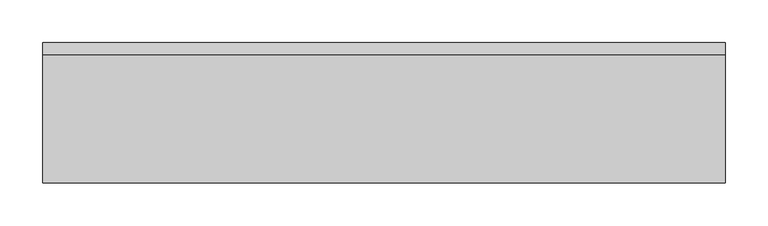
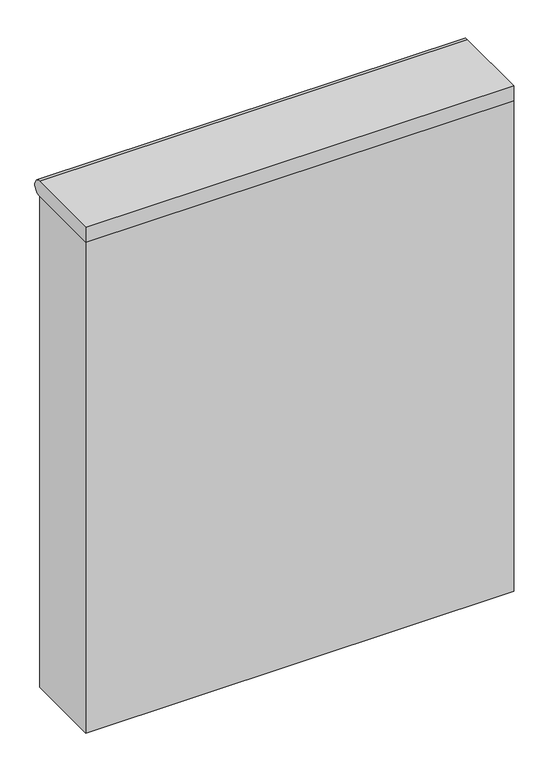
"""IFC4 building model written with IfcOpenShell, lengths in millimetres: flow terminal geometry, 洋式便器 - ライニング付 - 2D : タイプ 1."""

import ifcopenshell
import ifcopenshell.guid

model = None  # the IFC model being written
_history = None  # IfcOwnerHistory: only IFC2X3 demands one
_inside = {}  # id of a spatial element -> (the spatial element, [elements in it])
_under = {}  # id of a project, library or spatial element -> (it, [spatial elements below it])
_declared = {}  # id of a project -> (the project, [libraries it declares])
_typed = {}  # id of a type object -> (the type object, [elements of that type])
_made_of = {}  # id of a material, layer set ... -> (it, [elements and type objects made of it])


def new_model(schema):
    """Start an empty IFC model of exactly this schema.

    Asked for "IFC4X3", IfcOpenShell would pick the latest addendum, in which some entities
    have other attributes; the version numbers below select the first issue.
    IFC2X3 requires an IfcOwnerHistory on every rooted entity: one is made here for all.
    """
    global model, _history
    if schema == "IFC4X3":
        model = ifcopenshell.file(schema_version=(4, 3, 0, 0))
    else:
        model = ifcopenshell.file(schema=schema)
    _inside.clear()
    _under.clear()
    _declared.clear()
    _typed.clear()
    _made_of.clear()
    _history = None
    if model.schema == "IFC2X3":
        org = make("IfcOrganization", Name="unknown")
        user = make(
            "IfcPersonAndOrganization",
            ThePerson=make("IfcPerson", FamilyName="unknown"),
            TheOrganization=org,
        )
        app = make(
            "IfcApplication",
            ApplicationDeveloper=org,
            Version="unknown",
            ApplicationFullName="unknown",
            ApplicationIdentifier="unknown",
        )
        _history = make(
            "IfcOwnerHistory",
            OwningUser=user,
            OwningApplication=app,
            ChangeAction="ADDED",
            CreationDate=0,
        )
    return model


def make(cls, **values):
    """One entity of the class cls with the attributes given. An attribute that is None is left unset."""
    return model.create_entity(
        cls, **{name: value for name, value in values.items() if value is not None}
    )


def rooted(cls, **values):
    """An entity with a GlobalId (a new one), such as an element, a storey or a relation."""
    return make(cls, GlobalId=ifcopenshell.guid.new(), OwnerHistory=_history, **values)


def si_unit(unit_type, name, prefix=None):
    """IfcSIUnit, for example si_unit("LENGTHUNIT", "METRE", prefix="MILLI")."""
    return make("IfcSIUnit", UnitType=unit_type, Prefix=prefix, Name=name)


def assignment(units):
    """IfcUnitAssignment: the units of a project."""
    return None if units is None else make("IfcUnitAssignment", Units=units)


def point(xyz):
    """IfcCartesianPoint."""
    return None if xyz is None else make("IfcCartesianPoint", Coordinates=xyz)


def direction(xyz):
    """IfcDirection."""
    return None if xyz is None else make("IfcDirection", DirectionRatios=xyz)


def frame(location, z_axis=None, x_axis=None):
    """IfcAxis2Placement3D, a coordinate frame: its origin and axes. An axis left out is left unset."""
    return make(
        "IfcAxis2Placement3D",
        Location=point(location),
        Axis=direction(z_axis),
        RefDirection=direction(x_axis),
    )


def frame_2d(location, x_axis=None):
    """IfcAxis2Placement2D, a coordinate frame in the plane: its origin and x axis."""
    return make(
        "IfcAxis2Placement2D", Location=point(location), RefDirection=direction(x_axis)
    )


def origin():
    """The frame at (0, 0, 0) with its axes left unset."""
    return frame((0.0, 0.0, 0.0))


def origin_with_axes():
    """The frame at (0, 0, 0) with the z axis (0, 0, 1) and the x axis (1, 0, 0) written out."""
    return frame((0.0, 0.0, 0.0), z_axis=(0.0, 0.0, 1.0), x_axis=(1.0, 0.0, 0.0))


def place(relative_to, where):
    """IfcLocalPlacement: puts the frame where relative to a parent placement (None: the world)."""
    return make(
        "IfcLocalPlacement", PlacementRelTo=relative_to, RelativePlacement=where
    )


def context(
    kind, dimensions, precision=None, world=None, true_north=None, identifier=None
):
    """IfcGeometricRepresentationContext, for example the 3D "Model" context."""
    return make(
        "IfcGeometricRepresentationContext",
        ContextIdentifier=identifier,
        ContextType=kind,
        CoordinateSpaceDimension=dimensions,
        Precision=precision,
        WorldCoordinateSystem=world,
        TrueNorth=true_north,
    )


def project(units=None, contexts=None):
    """IfcProject with its units and contexts."""
    return rooted(
        "IfcProject",
        Name="project",
        RepresentationContexts=contexts,
        UnitsInContext=assignment(units),
    )


def spatial(cls, under=None, at=None, **own):
    """A site, building, storey or space (cls), placed at a placement, below another one or the project."""
    s = rooted(cls, ObjectPlacement=at, **own)
    if under is not None:
        _under.setdefault(under.id(), (under, []))[1].append(s)
    return s


def polyline(points):
    """IfcPolyline through the points."""
    return make("IfcPolyline", Points=[point(p) for p in points])


def circle_curve(where, radius):
    """IfcCircle in the frame where."""
    return make("IfcCircle", Position=where, Radius=radius)


def trimmed(basis, trim1, trim2, sense, master):
    """IfcTrimmedCurve: the piece of a basis curve between two trims."""
    return make(
        "IfcTrimmedCurve",
        BasisCurve=basis,
        Trim1=trim1,
        Trim2=trim2,
        SenseAgreement=sense,
        MasterRepresentation=master,
    )


def segment(curve, same_sense, transition):
    """IfcCompositeCurveSegment."""
    return make(
        "IfcCompositeCurveSegment",
        Transition=transition,
        SameSense=same_sense,
        ParentCurve=curve,
    )


def composite_curve(segments, self_intersect=None):
    """IfcCompositeCurve: segments joined end to end."""
    return make("IfcCompositeCurve", Segments=segments, SelfIntersect=self_intersect)


def outline(outer, holes=None, kind="AREA"):
    """IfcArbitraryClosedProfileDef: a profile drawn as a closed curve; with holes, ...WithVoids."""
    if holes is None:
        return make("IfcArbitraryClosedProfileDef", ProfileType=kind, OuterCurve=outer)
    return make(
        "IfcArbitraryProfileDefWithVoids",
        ProfileType=kind,
        OuterCurve=outer,
        InnerCurves=holes,
    )


def extrude(swept, where, along, depth):
    """IfcExtrudedAreaSolid: the profile swept, set in the frame where, extruded along a direction by depth."""
    return make(
        "IfcExtrudedAreaSolid",
        SweptArea=swept,
        Position=where,
        ExtrudedDirection=direction(along),
        Depth=depth,
    )


def shape(context_of_items, identifier, shape_type, items):
    """IfcShapeRepresentation: the items that make up one representation, for example the "Body"."""
    return make(
        "IfcShapeRepresentation",
        ContextOfItems=context_of_items,
        RepresentationIdentifier=identifier,
        RepresentationType=shape_type,
        Items=items,
    )


def source(mapping_origin, context_of_items, identifier, shape_type, items):
    """IfcRepresentationMap: a shape defined once, which mapped items show again and again."""
    return make(
        "IfcRepresentationMap",
        MappingOrigin=mapping_origin,
        MappedRepresentation=shape(context_of_items, identifier, shape_type, items),
    )


def transform(
    local_origin,
    x_axis=None,
    y_axis=None,
    z_axis=None,
    scale=None,
    scale2=None,
    scale3=None,
    uniform=True,
):
    """IfcCartesianTransformationOperator3D, or its non-uniform kind. x_axis, y_axis, z_axis: its Axis1, 2, 3."""
    if uniform:
        return make(
            "IfcCartesianTransformationOperator3D",
            Axis1=direction(x_axis),
            Axis2=direction(y_axis),
            LocalOrigin=point(local_origin),
            Scale=scale,
            Axis3=direction(z_axis),
        )
    return make(
        "IfcCartesianTransformationOperator3DnonUniform",
        Axis1=direction(x_axis),
        Axis2=direction(y_axis),
        LocalOrigin=point(local_origin),
        Scale=scale,
        Axis3=direction(z_axis),
        Scale2=scale2,
        Scale3=scale3,
    )


def mapped(mapping_source, mapping_target):
    """IfcMappedItem: shows the shape of a source again, moved by a transform."""
    return make(
        "IfcMappedItem", MappingSource=mapping_source, MappingTarget=mapping_target
    )


def made_of(thing, what):
    """Note that an element or type object is made of a material, layer set ...; save() writes the relation."""
    if what is not None:
        _made_of.setdefault(what.id(), (what, []))[1].append(thing)
    return thing


def element(
    cls,
    number,
    at=None,
    inside=None,
    cuts=None,
    type_object=None,
    material=None,
    context=None,
    identifier="Body",
    shape_type=None,
    held_by="IfcProductDefinitionShape",
    body=None,
    shapes=None,
    **own,
):
    """One element of the class cls, such as IfcWall. Its Tag is "e" and its number.

    at: its placement. inside: the storey or other place that contains it. cuts: it is an
    opening in that element (IfcRelVoidsElement). A single representation is given by context,
    identifier, shape_type and body (its items); several are given by shapes. held_by: the class
    of the entity that holds the representations. save() writes the other relations.
    """
    e = rooted(cls, Tag="e%d" % number, ObjectPlacement=at, **own)
    if body is not None:
        shapes = [shape(context, identifier, shape_type, body)]
    if shapes is not None:
        e.Representation = make(held_by, Representations=shapes)
    if inside is not None:
        _inside.setdefault(inside.id(), (inside, []))[1].append(e)
    if cuts is not None:
        rooted(
            "IfcRelVoidsElement", RelatingBuildingElement=cuts, RelatedOpeningElement=e
        )
    if type_object is not None:
        _typed.setdefault(type_object.id(), (type_object, []))[1].append(e)
    return made_of(e, material)


def aggregate(whole, parts):
    """IfcRelAggregates: a whole, such as a stair, and the parts it consists of."""
    return rooted("IfcRelAggregates", RelatingObject=whole, RelatedObjects=parts)


def save(model, path):
    """Write the relations noted so far, then the file.

    IfcRelAggregates (storeys below a building ...), IfcRelContainedInSpatialStructure (elements
    in a storey), IfcRelDefinesByType, IfcRelAssociatesMaterial and IfcRelDeclares: one each for
    every whole, place, type object, material and project.
    """
    for whole, parts in _under.values():
        aggregate(whole, parts)
    for where, things in _inside.values():
        rooted(
            "IfcRelContainedInSpatialStructure",
            RelatedElements=things,
            RelatingStructure=where,
        )
    for kind, things in _typed.values():
        rooted("IfcRelDefinesByType", RelatedObjects=things, RelatingType=kind)
    for what, things in _made_of.values():
        rooted("IfcRelAssociatesMaterial", RelatedObjects=things, RelatingMaterial=what)
    for by, libraries in _declared.values():
        rooted("IfcRelDeclares", RelatingContext=by, RelatedDefinitions=libraries)
    model.write(path)


def flow_terminal_b8fa7ae2(model_context):
    return source(origin(), model_context, "Body", "SweptSolid", [
        extrude(outline(composite_curve([segment(trimmed(circle_curve(frame_2d((250.0, 985.0)), 15.0), [point((250.0, 1000.0))], [point((250.0, 970.0))], False, "CARTESIAN"), True, "CONTINUOUS"), segment(polyline([(250.0, 970.0), (100.0, 970.0), (100.0, 1000.0), (250.0, 1000.0)]), True, "CONTINUOUS")], self_intersect=False)), frame((-275.0, 0.0, 0.0), z_axis=(1.0, 0.0, 0.0), x_axis=(0.0, 1.0, 0.0)), (0.0, 0.0, 1.0), 800.0),
        extrude(outline(polyline([(525.0, 250.0), (525.0, 100.0), (-275.0, 100.0), (-275.0, 250.0), (525.0, 250.0)])), origin_with_axes(), (0.0, 0.0, 1.0), 970.0),
    ])


if __name__ == "__main__":
    model = new_model("IFC4")
    model_context = context("Model", 3, world=origin())
    ifc_project = project(units=[si_unit("LENGTHUNIT", "METRE", prefix="MILLI")], contexts=[model_context])
    site = spatial("IfcSite", under=ifc_project)
    building = spatial("IfcBuilding", under=site)
    placement = place(None, origin())
    flow_terminal_shape = flow_terminal_b8fa7ae2(model_context)
    element("IfcFlowTerminal", 1, ObjectType="洋式便器 - ライニング付 - 2D : タイプ 1", at=placement, inside=building, context=model_context, shape_type="MappedRepresentation", body=[
        mapped(flow_terminal_shape, transform((0.0, 0.0, 0.0), x_axis=(1.0, 0.0, 0.0), y_axis=(0.0, 1.0, 0.0), z_axis=(0.0, 0.0, 1.0))),
    ])
    save(model, "model.ifc")
